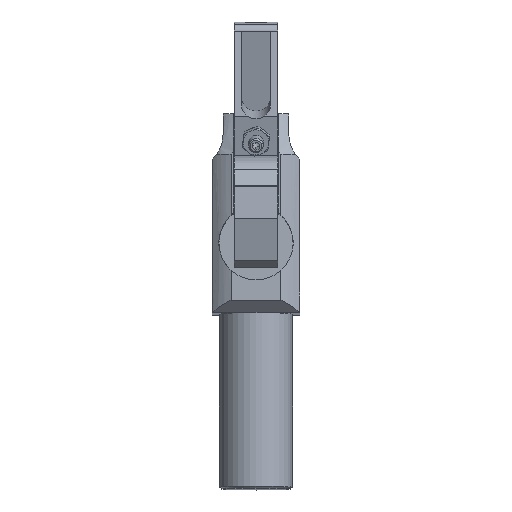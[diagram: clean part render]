
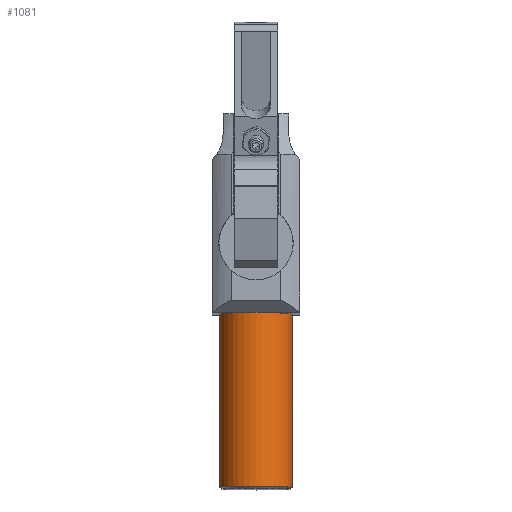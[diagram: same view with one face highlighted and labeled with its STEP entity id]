
A CAD part, left-side view. The second image highlights one B-rep face of the part: STEP entity #1081.
In plain terms, the highlighted cylindrical face has radius 10 mm (diameter 20 mm), a full revolution.
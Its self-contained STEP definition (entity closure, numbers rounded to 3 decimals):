
#1081=ADVANCED_FACE('',(#2185,#2186),#2187,.T.);
#2185=FACE_OUTER_BOUND('',#3730,.T.);
#2186=FACE_OUTER_BOUND('',#3731,.T.);
#2187=CYLINDRICAL_SURFACE('',#3732,10.0);
#3730=EDGE_LOOP('',(#5317));
#3731=EDGE_LOOP('',(#5318));
#3732=AXIS2_PLACEMENT_3D('',#5319,#5320,#5321);
#5317=ORIENTED_EDGE('',*,*,#9862,.T.);
#5318=ORIENTED_EDGE('',*,*,#9853,.T.);
#5319=CARTESIAN_POINT('',(0.0,0.0,57.0));
#5320=DIRECTION('',(0.0,0.0,1.0));
#5321=DIRECTION('',(1.0,0.0,0.0));
#9853=EDGE_CURVE('',#11697,#11697,#11698,.T.);
#9862=EDGE_CURVE('',#11713,#11713,#11714,.F.);
#11697=VERTEX_POINT('',#14552);
#11698=CIRCLE('',#14553,10.0);
#11713=VERTEX_POINT('',#14572);
#11714=CIRCLE('',#14573,10.0);
#14552=CARTESIAN_POINT('',(10.0,0.0,57.0));
#14553=AXIS2_PLACEMENT_3D('',#18293,#18294,#18295);
#14572=CARTESIAN_POINT('',(10.0,0.,104.5));
#14573=AXIS2_PLACEMENT_3D('',#18309,#18310,#18311);
#18293=CARTESIAN_POINT('',(0.0,0.0,57.0));
#18294=DIRECTION('',(0.0,0.0,1.0));
#18295=DIRECTION('',(1.0,0.0,0.0));
#18309=CARTESIAN_POINT('',(0.0,0.0,104.5));
#18310=DIRECTION('',(0.0,0.0,1.0));
#18311=DIRECTION('',(1.0,0.0,0.0));
